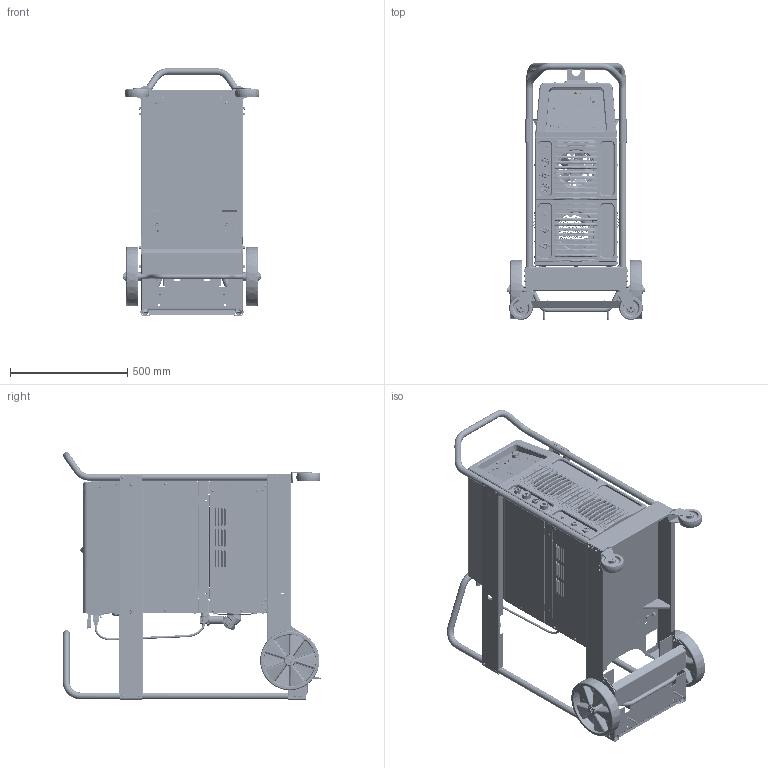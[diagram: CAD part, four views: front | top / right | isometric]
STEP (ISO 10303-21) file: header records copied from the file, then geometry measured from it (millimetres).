
FILE_DESCRIPTION (( 'STEP AP214' ), '1' );
FILE_NAME ('Dynasty_400_Cooler_Cart_Combo.STEP', '2018-10-18T18:12:28', ( '' ), ( '' ), 'SwSTEP 2.0', 'SolidWorks 2017', '' );
FILE_SCHEMA (( 'AUTOMOTIVE_DESIGN' ));
Length unit declared in the file: inch
Products named in the file (173): 601834; 254052_INSTALLED; 229553; 251545; 273981_knockout removed; 226932; 226971; Self Forming Screw_0.312-18 x 0.750 Lg (#602159); 228532_1.0"; 182445; 129351; 215667; 185717; 10028-06; 275258; 186914; 602154; 213053; 273675; 157243; flat washer narrow_am_B18.22M - Plain washer, 10 mm, narrow; 10229-82; 226929_LEFT HAND; 254153; blind standoff_pmi_PEM BSO-632-12 ZI--N; 206258; 152461; 163562; flush stud_pmi_PEM FH-0420-8 X--N; Self Forming Screw_0.250-20 x 1.500 Lg (#049966); 254151; 155436_LABEL,GROUND PROTECTIVE EARTH; 111630; 196312; 215667-1; 183492; 603730_HBOLT 0.3125-18x4x0.875-C; 227147_Rev A Torx; 137761; Dynasty_400_Cooler_Cart_Combo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
Assembly tree (406 placements, depth 6):
  Dynasty_400_Cooler_Cart_Combo
    226972
      230157 - No Drawer_shipping
        255893
          279605
          279477  x2
          157243  x4
          279602  x6
        255892
        255894
        255895
        226923  x2
        163463  x2
        226929_LEFT HAND
        226930
        226928  x2
        226920
          226921
          601856  x4
          228584_circle clip
        098079  x2
        602243  x2
        602250  x2
        152461  x8
        227147_Rev A Torx  x14
        602154  x4
        121614  x2
        Self Forming Screw_0.312-18 x 0.750 Lg (#602159)  x4
        Self Forming Screw_0.250-20 x 1.500 Lg (#049966)  x8
        235506  x2
        200285  x2
      228533_cooler only
        213053-050729
        226964
        226965_RH
        188082
        226940  x2
          10229-87B
          10229-82
          10229-83
          10031-24
          10029-10
          10028-06
        166608
        228498_rear panel only
        226931
          226931_front only
        196312
        226932
          226932
        228520
          215667
            215667-1
            215667-2
            215667-3
            215667-4
          226967
          176746  x6
          228532  x2
          231311  x2
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Bounding box: 588.11 x 1102.99 x 1056.88 mm (x, y, z)
Volume: 13973222.9 mm3; surface area: 11443905.8 mm2
Topology: 414 solids, 414 shells, 26197 faces, 66015 edges, 41454 vertices
Faces by surface type: plane 11921, cylinder 8656, bspline 1738, cone 1692, torus 1594, sphere 596
Entity records: 704128 total; most frequent: CARTESIAN_POINT 261293, ORIENTED_EDGE 89264, DIRECTION 84936, EDGE_CURVE 44632, AXIS2_PLACEMENT_3D 30597, VERTEX_POINT 28073, LINE 23742, VECTOR 23742
